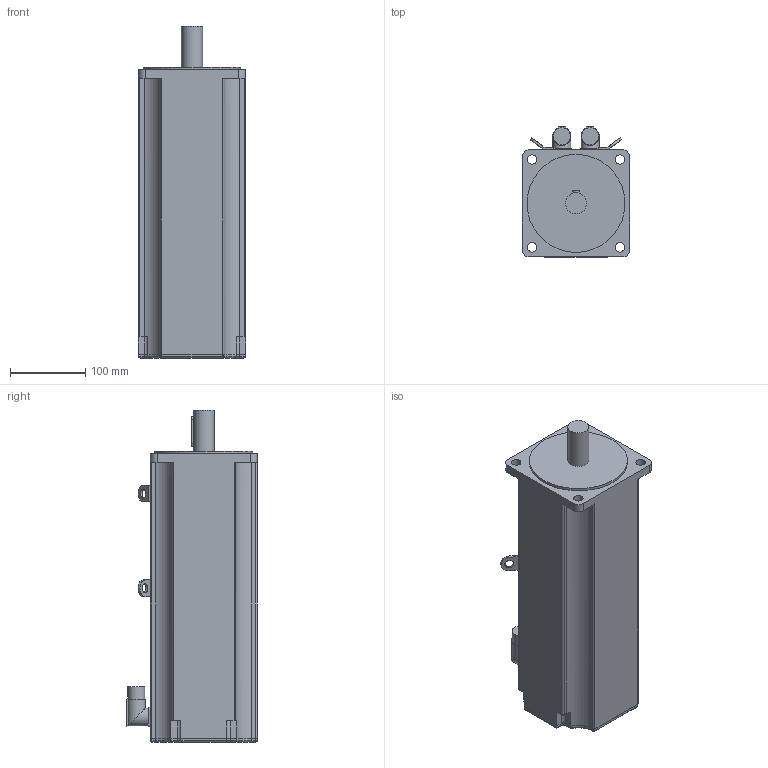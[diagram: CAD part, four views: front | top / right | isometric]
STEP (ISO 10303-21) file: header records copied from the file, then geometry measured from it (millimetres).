
FILE_DESCRIPTION(/* description */ (''),/* implementation_level */ '2;1');
FILE_NAME(/* name */ '\\Lafnas01\disegni\Archivi Lafert\3D\CAD 3D\MODELLI\Assiemi clienti\Serad\Modelli 3D Serad\B71Q\Encoder\Enc Without Brake\B7135Qxx6ARx2033.ipt.stp',/* time_stamp */ '2015-09-07T10:52:46+02:00',/* author */ ('Pastrello Ylenia'),/* organization */ (''),/* preprocessor_version */ 'ST-DEVELOPER v15.6',/* originating_system */ 'Autodesk Inventor 2015',/* authorisation */ '');
FILE_SCHEMA (('AUTOMOTIVE_DESIGN { 1 0 10303 214 3 1 1 }'));
Length unit declared in the file: millimetre
Products named in the file (1): B7135Qxx6ARx2033
Bounding box: 142 x 173.5 x 440.5 mm (x, y, z)
Volume: 6796875.1 mm3; surface area: 256711.3 mm2
Topology: 1 solids, 1 shells, 172 faces, 450 edges, 290 vertices
Faces by surface type: plane 86, cylinder 74, torus 8, sphere 4
Full cylindrical faces by diameter (mm): 12 x2, 12.5 x4, 22.7 x2, 24 x2, 28 x1, 130 x1
Entity records: 5354 total; most frequent: CARTESIAN_POINT 1031, DIRECTION 920, ORIENTED_EDGE 868, EDGE_CURVE 434, AXIS2_PLACEMENT_3D 323, VERTEX_POINT 286, LINE 274, VECTOR 274
